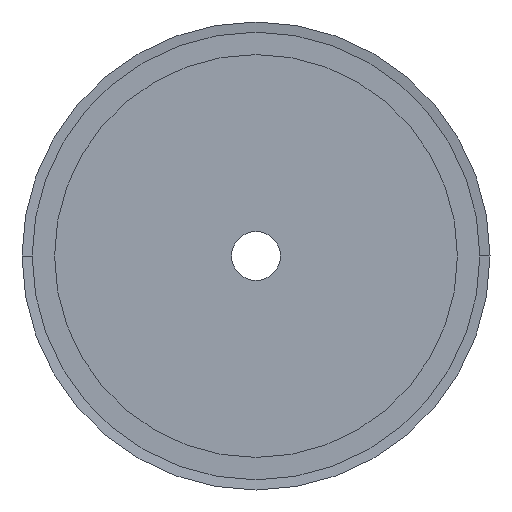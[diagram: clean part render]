
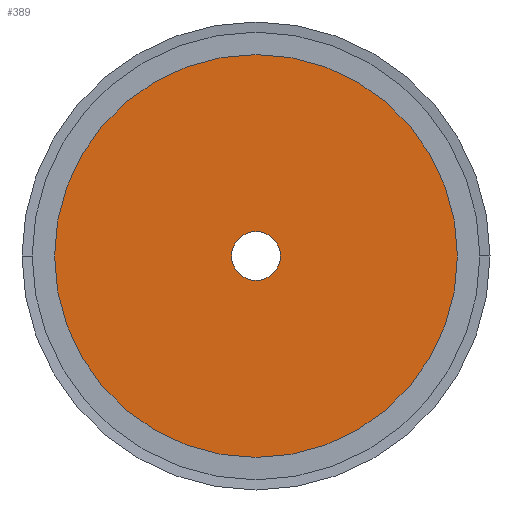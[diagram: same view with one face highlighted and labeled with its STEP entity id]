
A CAD part, left-side view. The second image highlights one B-rep face of the part: STEP entity #389.
In plain terms, the highlighted planar face has unit normal (-1, 0, 0).
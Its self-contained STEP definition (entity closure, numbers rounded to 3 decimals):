
#389 = ADVANCED_FACE( '', ( #1025, #1026 ), #1027, .T. );
#1025 = FACE_BOUND( '', #1662, .T. );
#1026 = FACE_OUTER_BOUND( '', #1663, .T. );
#1027 = PLANE( '', #1664 );
#1662 = EDGE_LOOP( '', ( #4435, #4436 ) );
#1663 = EDGE_LOOP( '', ( #4437, #4438 ) );
#1664 = AXIS2_PLACEMENT_3D( '', #4439, #4440, #4441 );
#4435 = ORIENTED_EDGE( '', *, *, #4481, .T. );
#4436 = ORIENTED_EDGE( '', *, *, #4477, .T. );
#4437 = ORIENTED_EDGE( '', *, *, #4445, .T. );
#4438 = ORIENTED_EDGE( '', *, *, #5357, .T. );
#4439 = CARTESIAN_POINT( '', ( 0., 24.75, 0. ) );
#4440 = DIRECTION( '', ( -1., 0., 0. ) );
#4441 = DIRECTION( '', ( 0., 1., 0. ) );
#4445 = EDGE_CURVE( '', #5359, #5363, #5365, .T. );
#4477 = EDGE_CURVE( '', #5423, #5420, #5424, .T. );
#4481 = EDGE_CURVE( '', #5420, #5423, #5429, .T. );
#5357 = EDGE_CURVE( '', #5363, #5359, #6881, .T. );
#5359 = VERTEX_POINT( '', #6883 );
#5363 = VERTEX_POINT( '', #6888 );
#5365 = CIRCLE( '', #6891, 49.5 );
#5420 = VERTEX_POINT( '', #6962 );
#5423 = VERTEX_POINT( '', #6966 );
#5424 = CIRCLE( '', #6967, 6. );
#5429 = CIRCLE( '', #6973, 6. );
#6881 = CIRCLE( '', #8929, 49.5 );
#6883 = CARTESIAN_POINT( '', ( 0., 49.5, 0. ) );
#6888 = CARTESIAN_POINT( '', ( 0., -49.5, 0. ) );
#6891 = AXIS2_PLACEMENT_3D( '', #8935, #8936, #8937 );
#6962 = CARTESIAN_POINT( '', ( 0., 6., 0. ) );
#6966 = CARTESIAN_POINT( '', ( 0., -6., 0. ) );
#6967 = AXIS2_PLACEMENT_3D( '', #8997, #8998, #8999 );
#6973 = AXIS2_PLACEMENT_3D( '', #9007, #9008, #9009 );
#8929 = AXIS2_PLACEMENT_3D( '', #10627, #10628, #10629 );
#8935 = CARTESIAN_POINT( '', ( 0., 0., 0. ) );
#8936 = DIRECTION( '', ( -1., 0., 0. ) );
#8937 = DIRECTION( '', ( 0., 1., 0. ) );
#8997 = CARTESIAN_POINT( '', ( 0., 0., 0. ) );
#8998 = DIRECTION( '', ( 1., 0., 0. ) );
#8999 = DIRECTION( '', ( 0., 1., 0. ) );
#9007 = CARTESIAN_POINT( '', ( 0., 0., 0. ) );
#9008 = DIRECTION( '', ( 1., 0., 0. ) );
#9009 = DIRECTION( '', ( 0., 1., 0. ) );
#10627 = CARTESIAN_POINT( '', ( 0., 0., 0. ) );
#10628 = DIRECTION( '', ( -1., 0., 0. ) );
#10629 = DIRECTION( '', ( 0., 1., 0. ) );
